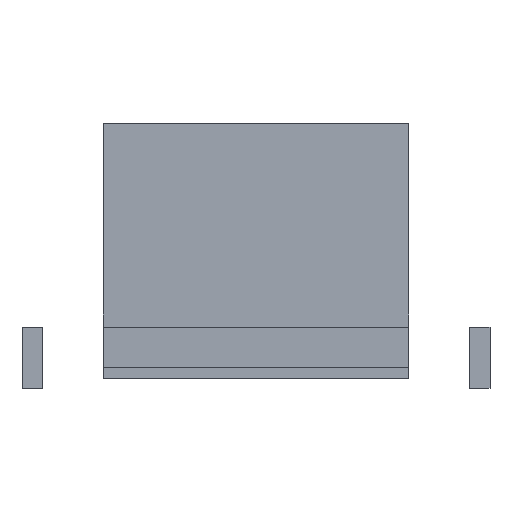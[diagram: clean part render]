
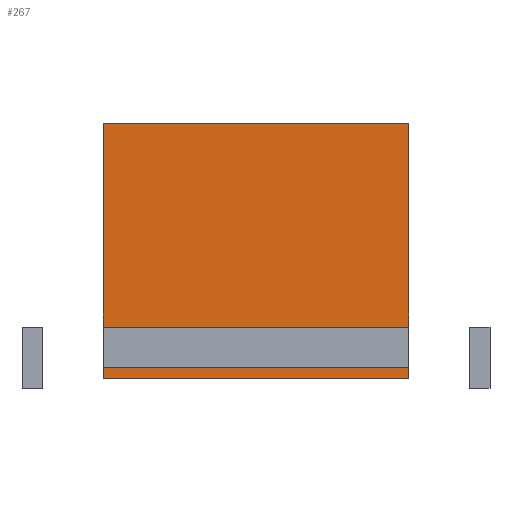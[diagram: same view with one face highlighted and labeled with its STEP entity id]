
A CAD part, front view. The second image highlights one B-rep face of the part: STEP entity #267.
In plain terms, the highlighted planar face has unit normal (0, -1, 0).
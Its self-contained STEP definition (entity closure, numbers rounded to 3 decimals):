
#51 = EDGE_CURVE('',#52,#54,#56,.T.);
#52 = VERTEX_POINT('',#53);
#53 = CARTESIAN_POINT('',(-30.,-1.5,-25.));
#54 = VERTEX_POINT('',#55);
#55 = CARTESIAN_POINT('',(-30.,-1.5,25.));
#56 = SURFACE_CURVE('',#57,(#61,#73),.PCURVE_S1.);
#57 = LINE('',#58,#59);
#58 = CARTESIAN_POINT('',(-30.,-1.5,-25.));
#59 = VECTOR('',#60,1.);
#60 = DIRECTION('',(0.,0.,1.));
#61 = PCURVE('',#62,#67);
#62 = PLANE('',#63);
#63 = AXIS2_PLACEMENT_3D('',#64,#65,#66);
#64 = CARTESIAN_POINT('',(-30.,-1.5,-25.));
#65 = DIRECTION('',(1.,0.,-0.));
#66 = DIRECTION('',(0.,0.,1.));
#67 = DEFINITIONAL_REPRESENTATION('',(#68),#72);
#68 = LINE('',#69,#70);
#69 = CARTESIAN_POINT('',(0.,0.));
#70 = VECTOR('',#71,1.);
#71 = DIRECTION('',(1.,0.));
#72 = ( GEOMETRIC_REPRESENTATION_CONTEXT(2) 
PARAMETRIC_REPRESENTATION_CONTEXT() REPRESENTATION_CONTEXT('2D SPACE',''
  ) );
#73 = PCURVE('',#74,#79);
#74 = PLANE('',#75);
#75 = AXIS2_PLACEMENT_3D('',#76,#77,#78);
#76 = CARTESIAN_POINT('',(-30.,-1.5,-25.));
#77 = DIRECTION('',(-0.,1.,0.));
#78 = DIRECTION('',(0.,0.,1.));
#79 = DEFINITIONAL_REPRESENTATION('',(#80),#84);
#80 = LINE('',#81,#82);
#81 = CARTESIAN_POINT('',(0.,0.));
#82 = VECTOR('',#83,1.);
#83 = DIRECTION('',(1.,0.));
#84 = ( GEOMETRIC_REPRESENTATION_CONTEXT(2) 
PARAMETRIC_REPRESENTATION_CONTEXT() REPRESENTATION_CONTEXT('2D SPACE',''
  ) );
#102 = PLANE('',#103);
#103 = AXIS2_PLACEMENT_3D('',#104,#105,#106);
#104 = CARTESIAN_POINT('',(-30.,-1.5,-25.));
#105 = DIRECTION('',(0.,0.,1.));
#106 = DIRECTION('',(1.,0.,-0.));
#156 = PLANE('',#157);
#157 = AXIS2_PLACEMENT_3D('',#158,#159,#160);
#158 = CARTESIAN_POINT('',(-30.,-1.5,25.));
#159 = DIRECTION('',(0.,0.,1.));
#160 = DIRECTION('',(1.,0.,-0.));
#171 = EDGE_CURVE('',#172,#174,#176,.T.);
#172 = VERTEX_POINT('',#173);
#173 = CARTESIAN_POINT('',(30.,-1.5,-25.));
#174 = VERTEX_POINT('',#175);
#175 = CARTESIAN_POINT('',(30.,-1.5,25.));
#176 = SURFACE_CURVE('',#177,(#181,#193),.PCURVE_S1.);
#177 = LINE('',#178,#179);
#178 = CARTESIAN_POINT('',(30.,-1.5,-25.));
#179 = VECTOR('',#180,1.);
#180 = DIRECTION('',(0.,0.,1.));
#181 = PCURVE('',#182,#187);
#182 = PLANE('',#183);
#183 = AXIS2_PLACEMENT_3D('',#184,#185,#186);
#184 = CARTESIAN_POINT('',(30.,-1.5,-25.));
#185 = DIRECTION('',(1.,0.,-0.));
#186 = DIRECTION('',(0.,0.,1.));
#187 = DEFINITIONAL_REPRESENTATION('',(#188),#192);
#188 = LINE('',#189,#190);
#189 = CARTESIAN_POINT('',(0.,0.));
#190 = VECTOR('',#191,1.);
#191 = DIRECTION('',(1.,0.));
#192 = ( GEOMETRIC_REPRESENTATION_CONTEXT(2) 
PARAMETRIC_REPRESENTATION_CONTEXT() REPRESENTATION_CONTEXT('2D SPACE',''
  ) );
#193 = PCURVE('',#74,#194);
#194 = DEFINITIONAL_REPRESENTATION('',(#195),#199);
#195 = LINE('',#196,#197);
#196 = CARTESIAN_POINT('',(0.,60.));
#197 = VECTOR('',#198,1.);
#198 = DIRECTION('',(1.,0.));
#199 = ( GEOMETRIC_REPRESENTATION_CONTEXT(2) 
PARAMETRIC_REPRESENTATION_CONTEXT() REPRESENTATION_CONTEXT('2D SPACE',''
  ) );
#267 = ADVANCED_FACE('',(#268),#74,.F.);
#268 = FACE_BOUND('',#269,.F.);
#269 = EDGE_LOOP('',(#270,#291,#292,#313));
#270 = ORIENTED_EDGE('',*,*,#271,.F.);
#271 = EDGE_CURVE('',#52,#172,#272,.T.);
#272 = SURFACE_CURVE('',#273,(#277,#284),.PCURVE_S1.);
#273 = LINE('',#274,#275);
#274 = CARTESIAN_POINT('',(-30.,-1.5,-25.));
#275 = VECTOR('',#276,1.);
#276 = DIRECTION('',(1.,0.,-0.));
#277 = PCURVE('',#74,#278);
#278 = DEFINITIONAL_REPRESENTATION('',(#279),#283);
#279 = LINE('',#280,#281);
#280 = CARTESIAN_POINT('',(0.,0.));
#281 = VECTOR('',#282,1.);
#282 = DIRECTION('',(0.,1.));
#283 = ( GEOMETRIC_REPRESENTATION_CONTEXT(2) 
PARAMETRIC_REPRESENTATION_CONTEXT() REPRESENTATION_CONTEXT('2D SPACE',''
  ) );
#284 = PCURVE('',#102,#285);
#285 = DEFINITIONAL_REPRESENTATION('',(#286),#290);
#286 = LINE('',#287,#288);
#287 = CARTESIAN_POINT('',(0.,0.));
#288 = VECTOR('',#289,1.);
#289 = DIRECTION('',(1.,0.));
#290 = ( GEOMETRIC_REPRESENTATION_CONTEXT(2) 
PARAMETRIC_REPRESENTATION_CONTEXT() REPRESENTATION_CONTEXT('2D SPACE',''
  ) );
#291 = ORIENTED_EDGE('',*,*,#51,.T.);
#292 = ORIENTED_EDGE('',*,*,#293,.T.);
#293 = EDGE_CURVE('',#54,#174,#294,.T.);
#294 = SURFACE_CURVE('',#295,(#299,#306),.PCURVE_S1.);
#295 = LINE('',#296,#297);
#296 = CARTESIAN_POINT('',(-30.,-1.5,25.));
#297 = VECTOR('',#298,1.);
#298 = DIRECTION('',(1.,0.,-0.));
#299 = PCURVE('',#74,#300);
#300 = DEFINITIONAL_REPRESENTATION('',(#301),#305);
#301 = LINE('',#302,#303);
#302 = CARTESIAN_POINT('',(50.,0.));
#303 = VECTOR('',#304,1.);
#304 = DIRECTION('',(0.,1.));
#305 = ( GEOMETRIC_REPRESENTATION_CONTEXT(2) 
PARAMETRIC_REPRESENTATION_CONTEXT() REPRESENTATION_CONTEXT('2D SPACE',''
  ) );
#306 = PCURVE('',#156,#307);
#307 = DEFINITIONAL_REPRESENTATION('',(#308),#312);
#308 = LINE('',#309,#310);
#309 = CARTESIAN_POINT('',(0.,0.));
#310 = VECTOR('',#311,1.);
#311 = DIRECTION('',(1.,0.));
#312 = ( GEOMETRIC_REPRESENTATION_CONTEXT(2) 
PARAMETRIC_REPRESENTATION_CONTEXT() REPRESENTATION_CONTEXT('2D SPACE',''
  ) );
#313 = ORIENTED_EDGE('',*,*,#171,.F.);
